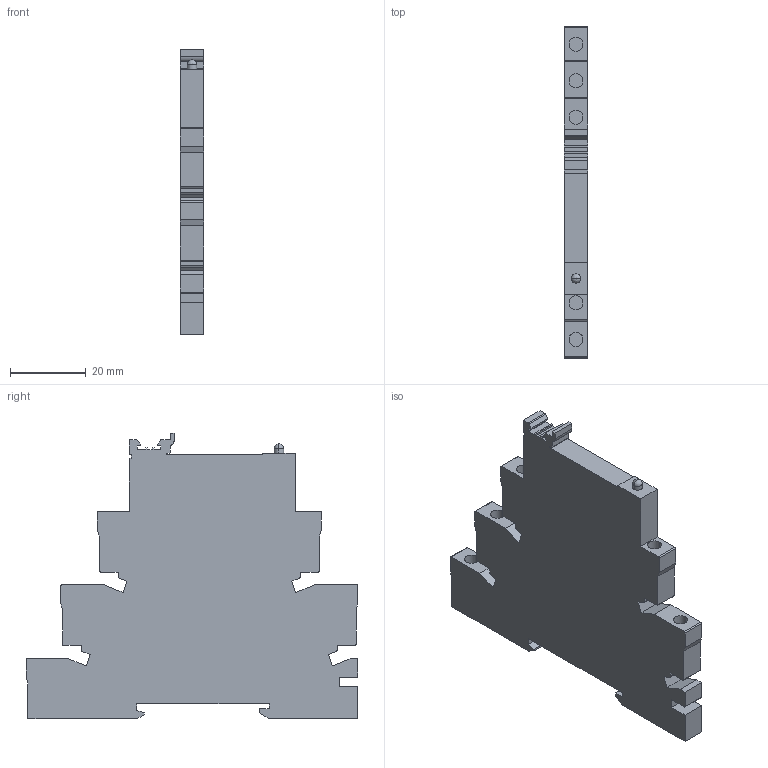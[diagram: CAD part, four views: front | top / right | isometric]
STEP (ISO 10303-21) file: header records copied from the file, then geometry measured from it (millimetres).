
FILE_DESCRIPTION(('STEP AP214'),'1');
FILE_NAME('14477.stp','2018-09-06T15:06:30',('TraceParts'),('TraceParts S.A.'),'Spatial InterOp 3D',' ',' ');
FILE_SCHEMA(('automotive_design'));
Length unit declared in the file: millimetre
Products named in the file (1): 14477
Bounding box: 6.2 x 87.8 x 75.6 mm (x, y, z)
Volume: 27651.9 mm3; surface area: 11884.1 mm2
Topology: 1 solids, 1 shells, 130 faces, 368 edges, 242 vertices
Faces by surface type: plane 98, cylinder 30, sphere 2
Entity records: 4168 total; most frequent: CARTESIAN_POINT 737, ORIENTED_EDGE 728, DIRECTION 687, EDGE_CURVE 364, LINE 303, VECTOR 303, VERTEX_POINT 242, AXIS2_PLACEMENT_3D 192
